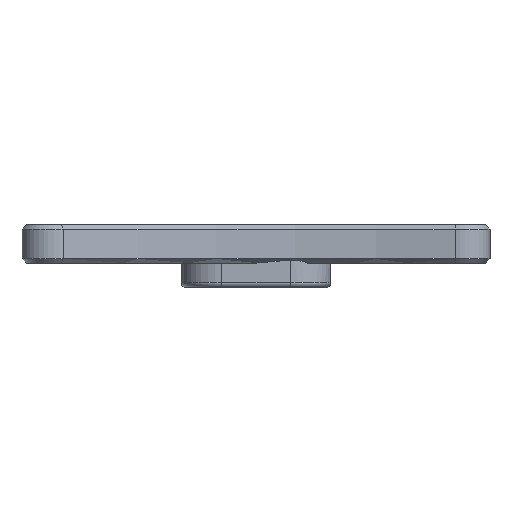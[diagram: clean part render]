
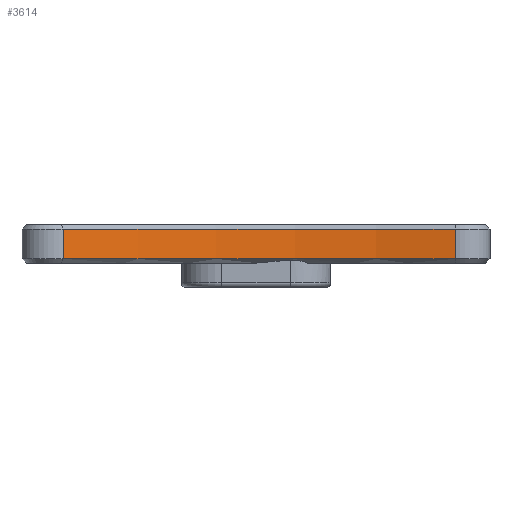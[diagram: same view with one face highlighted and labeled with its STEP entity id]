
A CAD part, left-side view. The second image highlights one B-rep face of the part: STEP entity #3614.
In plain terms, the highlighted cylindrical face has radius 75.646 mm (diameter 151.292 mm), a partial arc.
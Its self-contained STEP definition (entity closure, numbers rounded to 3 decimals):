
#67=CYLINDRICAL_SURFACE('',#3957,75.646);
#268=CIRCLE('',#3918,75.646);
#281=CIRCLE('',#3937,75.646);
#433=FACE_OUTER_BOUND('',#669,.T.);
#669=EDGE_LOOP('',(#2702,#2703,#2704,#2705));
#934=LINE('',#5848,#1256);
#935=LINE('',#5849,#1257);
#1256=VECTOR('',#4654,10.);
#1257=VECTOR('',#4655,10.);
#1627=VERTEX_POINT('',#5776);
#1628=VERTEX_POINT('',#5778);
#1637=VERTEX_POINT('',#5808);
#1638=VERTEX_POINT('',#5812);
#1994=EDGE_CURVE('',#1627,#1628,#268,.T.);
#2013=EDGE_CURVE('',#1638,#1637,#281,.T.);
#2030=EDGE_CURVE('',#1638,#1628,#934,.T.);
#2031=EDGE_CURVE('',#1637,#1627,#935,.T.);
#2702=ORIENTED_EDGE('',*,*,#2013,.F.);
#2703=ORIENTED_EDGE('',*,*,#2030,.T.);
#2704=ORIENTED_EDGE('',*,*,#1994,.F.);
#2705=ORIENTED_EDGE('',*,*,#2031,.F.);
#3614=ADVANCED_FACE('',(#433),#67,.F.);
#3918=AXIS2_PLACEMENT_3D('',#5779,#4560,#4561);
#3937=AXIS2_PLACEMENT_3D('',#5814,#4604,#4605);
#3957=AXIS2_PLACEMENT_3D('',#5847,#4652,#4653);
#4560=DIRECTION('center_axis',(0.,0.,1.));
#4561=DIRECTION('ref_axis',(0.98,-0.201,0.));
#4604=DIRECTION('center_axis',(0.,0.,-1.));
#4605=DIRECTION('ref_axis',(0.98,-0.201,0.));
#4652=DIRECTION('center_axis',(0.,0.,-1.));
#4653=DIRECTION('ref_axis',(0.98,-0.201,0.));
#4654=DIRECTION('',(0.,0.,-1.));
#4655=DIRECTION('',(0.,0.,-1.));
#5776=CARTESIAN_POINT('',(-1.547,-15.005,3.4));
#5778=CARTESIAN_POINT('',(-7.099,32.21,3.4));
#5779=CARTESIAN_POINT('Origin',(-75.646,0.217,3.4));
#5808=CARTESIAN_POINT('',(-1.547,-15.005,7.));
#5812=CARTESIAN_POINT('',(-7.099,32.21,7.));
#5814=CARTESIAN_POINT('Origin',(-75.646,0.217,7.));
#5847=CARTESIAN_POINT('Origin',(-75.646,0.217,7.5));
#5848=CARTESIAN_POINT('',(-7.099,32.21,7.5));
#5849=CARTESIAN_POINT('',(-1.547,-15.005,7.5));
